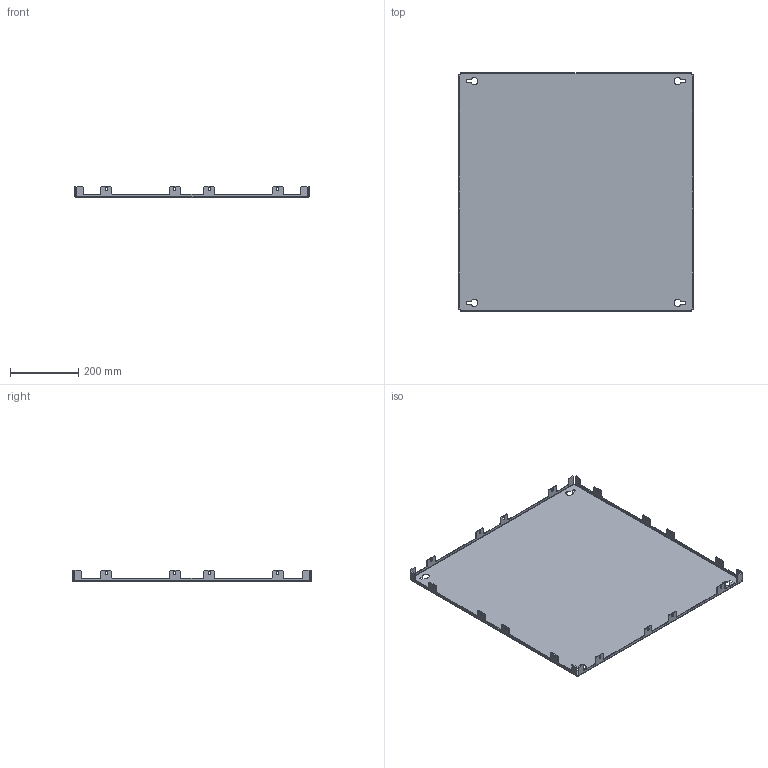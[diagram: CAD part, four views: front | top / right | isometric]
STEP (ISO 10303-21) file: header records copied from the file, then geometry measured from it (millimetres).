
FILE_DESCRIPTION (( 'STEP AP203' ), '1' );
FILE_NAME ('R5LPS0808.STEP', '2021-12-17T12:50:00', ( '' ), ( '' ), 'SwSTEP 2.0', 'SolidWorks 2020', '' );
FILE_SCHEMA (( 'CONFIG_CONTROL_DESIGN' ));
Length unit declared in the file: millimetre
Products named in the file (1): R5LPS0808
Bounding box: 684 x 698 x 32.5 mm (x, y, z)
Volume: 1018708.6 mm3; surface area: 1027889.3 mm2
Topology: 1 solids, 1 shells, 328 faces, 946 edges, 620 vertices
Faces by surface type: plane 210, cylinder 118
Entity records: 10887 total; most frequent: CARTESIAN_POINT 1895, ORIENTED_EDGE 1892, DIRECTION 1840, EDGE_CURVE 946, LINE 710, VECTOR 710, VERTEX_POINT 620, AXIS2_PLACEMENT_3D 565
